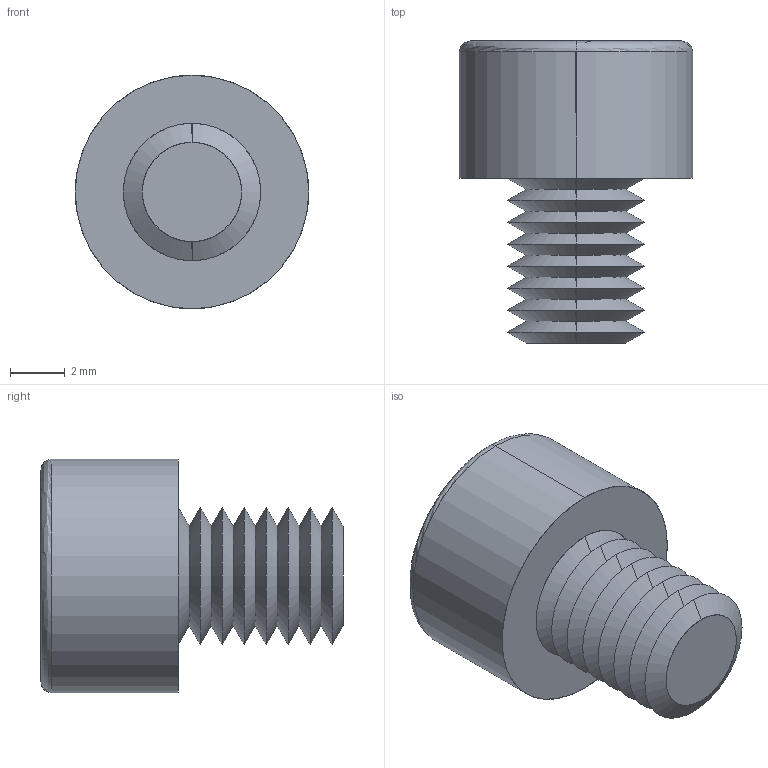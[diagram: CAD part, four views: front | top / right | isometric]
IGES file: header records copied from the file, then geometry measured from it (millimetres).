
Start section: SolidWorks IGES file using analytic representation for surfaces
Global section: file name: C:\Users\ianosborn\Desktop\N0007.91N_v2\N0007.91N_v2_20250519_IGES\91N.050.0060.igs; native system: SolidWorks 2019; preprocessor: SolidWorks 2019; author: IanOsborn; date: 250520.095131; units: millimetre
Bounding box: 8.5 x 11 x 8.5 mm (x, y, z)
Surface area: 452.1 mm2 (no closed solid volume)
Topology: 0 solids, 0 shells, 58 faces, 429 edges, 427 vertices
Faces by surface type: revolution 41, bspline 17
